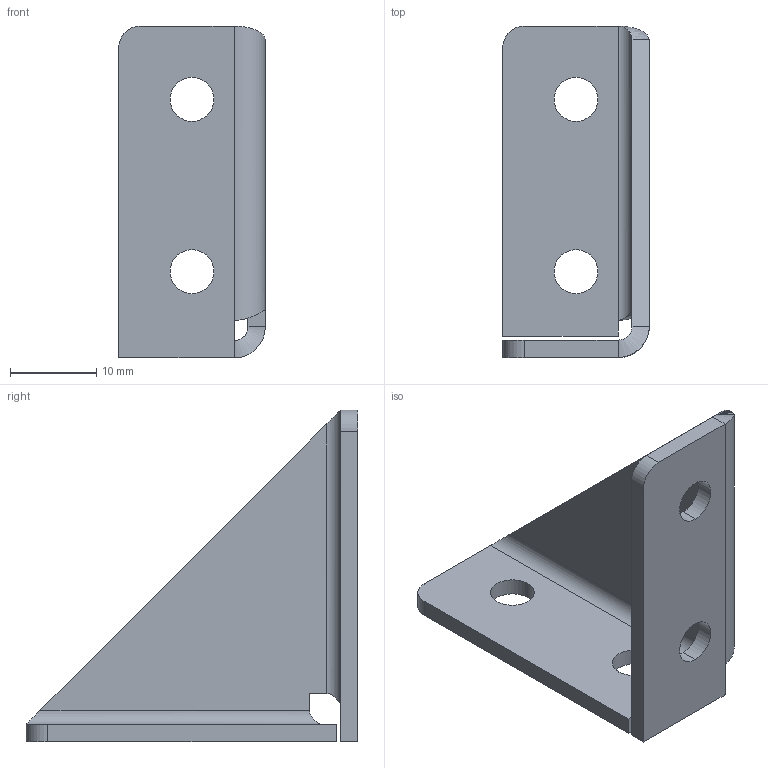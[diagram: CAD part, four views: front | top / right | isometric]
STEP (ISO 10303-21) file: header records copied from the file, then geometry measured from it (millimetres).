
FILE_DESCRIPTION (( 'STEP AP214' ), '1' );
FILE_NAME ('8005s.STEP', '2015-03-29T07:32:59', ( '' ), ( '' ), 'SwSTEP 2.0', 'SolidWorks 2014', '' );
FILE_SCHEMA (( 'AUTOMOTIVE_DESIGN' ));
Length unit declared in the file: millimetre
Products named in the file (1): 8005s
Bounding box: 17 x 38.5 x 38.5 mm (x, y, z)
Volume: 3466.8 mm3; surface area: 3996.6 mm2
Topology: 1 solids, 1 shells, 35 faces, 83 edges, 50 vertices
Faces by surface type: plane 17, cylinder 14, bspline 4
Entity records: 1135 total; most frequent: CARTESIAN_POINT 307, ORIENTED_EDGE 166, DIRECTION 155, EDGE_CURVE 83, AXIS2_PLACEMENT_3D 52, VECTOR 51, LINE 51, VERTEX_POINT 50
